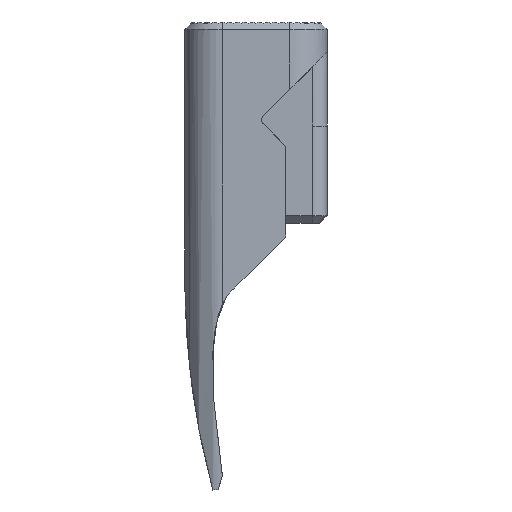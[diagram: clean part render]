
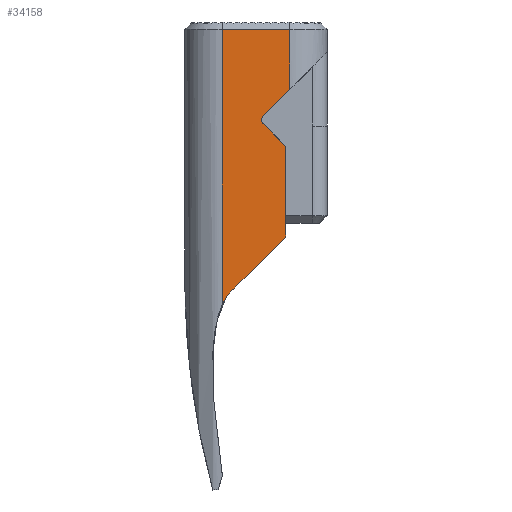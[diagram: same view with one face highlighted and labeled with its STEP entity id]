
A CAD part, left-side view. The second image highlights one B-rep face of the part: STEP entity #34158.
In plain terms, the highlighted planar face has unit normal (-1, 0, 0).
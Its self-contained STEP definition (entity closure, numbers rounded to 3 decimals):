
#175 = VECTOR ( 'NONE', #14404, 1000. ) ;
#455 = CARTESIAN_POINT ( 'NONE',  ( -19., -19., -140. ) ) ;
#1005 = CARTESIAN_POINT ( 'NONE',  ( -19., -1.939, -27.182 ) ) ;
#1112 = CIRCLE ( 'NONE', #30056, 1.5 ) ;
#1222 = CARTESIAN_POINT ( 'NONE',  ( -19., 7.575, -72.281 ) ) ;
#1602 = EDGE_CURVE ( 'NONE', #33680, #33112, #37123, .T. ) ;
#2120 = CARTESIAN_POINT ( 'NONE',  ( -19., -9., -2. ) ) ;
#2143 = AXIS2_PLACEMENT_3D ( 'NONE', #16245, #28291, #20493 ) ;
#2418 = EDGE_CURVE ( 'NONE', #11931, #16132, #32247, .T. ) ;
#2711 = EDGE_CURVE ( 'NONE', #16132, #22895, #1112, .T. ) ;
#2826 = DIRECTION ( 'NONE',  ( -1., 0., 0. ) ) ;
#3177 = ORIENTED_EDGE ( 'NONE', *, *, #33696, .T. ) ;
#3697 = CARTESIAN_POINT ( 'NONE',  ( -19., -8., -26.765 ) ) ;
#4850 = VECTOR ( 'NONE', #15710, 1000. ) ;
#5526 = LINE ( 'NONE', #11441, #175 ) ;
#5683 = CARTESIAN_POINT ( 'NONE',  ( -19., 9., -75.426 ) ) ;
#6404 = VERTEX_POINT ( 'NONE', #33949 ) ;
#7640 = ORIENTED_EDGE ( 'NONE', *, *, #37213, .T. ) ;
#8144 = ORIENTED_EDGE ( 'NONE', *, *, #13403, .T. ) ;
#8267 = LINE ( 'NONE', #14377, #27568 ) ;
#8283 = CARTESIAN_POINT ( 'NONE',  ( -19., -1.939, -25.061 ) ) ;
#8609 = CARTESIAN_POINT ( 'NONE',  ( -19., -8., -34.071 ) ) ;
#8739 = CARTESIAN_POINT ( 'NONE',  ( -19., -8., -56.572 ) ) ;
#8872 = EDGE_CURVE ( 'NONE', #27578, #33112, #5526, .T. ) ;
#9566 = CARTESIAN_POINT ( 'NONE',  ( -19., -9., -18. ) ) ;
#10164 = CARTESIAN_POINT ( 'NONE',  ( -19., -3., -26.121 ) ) ;
#10201 = EDGE_CURVE ( 'NONE', #21184, #19460, #23451, .T. ) ;
#10204 = ORIENTED_EDGE ( 'NONE', *, *, #27041, .T. ) ;
#10470 = EDGE_CURVE ( 'NONE', #31585, #21184, #30707, .T. ) ;
#11378 = DIRECTION ( 'NONE',  ( -1., 0., 0. ) ) ;
#11441 = CARTESIAN_POINT ( 'NONE',  ( -19., 7.651, -73.052 ) ) ;
#11796 = CARTESIAN_POINT ( 'NONE',  ( -19., 9., -2. ) ) ;
#11931 = VERTEX_POINT ( 'NONE', #9566 ) ;
#12747 = AXIS2_PLACEMENT_3D ( 'NONE', #14341, #11378, #26371 ) ;
#12960 = ORIENTED_EDGE ( 'NONE', *, *, #2711, .F. ) ;
#13107 = DIRECTION ( 'NONE',  ( 0., -0.707, -0.707 ) ) ;
#13403 = EDGE_CURVE ( 'NONE', #11931, #23661, #8267, .T. ) ;
#14239 = CARTESIAN_POINT ( 'NONE',  ( -19., -7.414, -32.657 ) ) ;
#14341 = CARTESIAN_POINT ( 'NONE',  ( -19., -6., -34.071 ) ) ;
#14377 = CARTESIAN_POINT ( 'NONE',  ( -19., -9., -140. ) ) ;
#14404 = DIRECTION ( 'NONE',  ( 0., 0.707, -0.707 ) ) ;
#14808 = CARTESIAN_POINT ( 'NONE',  ( -19., 5.378, -70.779 ) ) ;
#15217 = CARTESIAN_POINT ( 'NONE',  ( -19., 9., -140. ) ) ;
#15710 = DIRECTION ( 'NONE',  ( 0., 0., 1. ) ) ;
#16132 = VERTEX_POINT ( 'NONE', #8283 ) ;
#16245 = CARTESIAN_POINT ( 'NONE',  ( -19., -6., -56.572 ) ) ;
#16252 = LINE ( 'NONE', #34200, #33620 ) ;
#16450 = DIRECTION ( 'NONE',  ( -1., 0., 0. ) ) ;
#17780 = LINE ( 'NONE', #15217, #21691 ) ;
#19460 = VERTEX_POINT ( 'NONE', #14239 ) ;
#19553 = CARTESIAN_POINT ( 'NONE',  ( -19., 5.378, -70.779 ) ) ;
#20493 = DIRECTION ( 'NONE',  ( 0., 0., 1. ) ) ;
#20568 = DIRECTION ( 'NONE',  ( 0., 0., 1. ) ) ;
#21184 = VERTEX_POINT ( 'NONE', #8609 ) ;
#21649 = EDGE_LOOP ( 'NONE', ( #29208, #10204, #30606, #38487, #37928, #12960, #34228, #8144, #3177, #7640, #25913 ) ) ;
#21691 = VECTOR ( 'NONE', #26866, 1000. ) ;
#22895 = VERTEX_POINT ( 'NONE', #1005 ) ;
#23451 = CIRCLE ( 'NONE', #12747, 2. ) ;
#23661 = VERTEX_POINT ( 'NONE', #2120 ) ;
#25913 = ORIENTED_EDGE ( 'NONE', *, *, #1602, .T. ) ;
#26213 = DIRECTION ( 'NONE',  ( 0., 0., 1. ) ) ;
#26371 = DIRECTION ( 'NONE',  ( 0., 0., 1. ) ) ;
#26802 = CARTESIAN_POINT ( 'NONE',  ( -19., -7.414, -57.986 ) ) ;
#26866 = DIRECTION ( 'NONE',  ( 0., 0., -1. ) ) ;
#27041 = EDGE_CURVE ( 'NONE', #27578, #31585, #29835, .T. ) ;
#27481 = PLANE ( 'NONE',  #35988 ) ;
#27568 = VECTOR ( 'NONE', #26213, 1000. ) ;
#27578 = VERTEX_POINT ( 'NONE', #26802 ) ;
#28251 = CARTESIAN_POINT ( 'NONE',  ( -19., 9., -75.426 ) ) ;
#28291 = DIRECTION ( 'NONE',  ( -1., 0., 0. ) ) ;
#28503 = EDGE_CURVE ( 'NONE', #22895, #19460, #16252, .T. ) ;
#28746 = DIRECTION ( 'NONE',  ( 0., 0.707, -0.707 ) ) ;
#28930 = CARTESIAN_POINT ( 'NONE',  ( -19., -19., -8. ) ) ;
#29208 = ORIENTED_EDGE ( 'NONE', *, *, #8872, .F. ) ;
#29546 = LINE ( 'NONE', #11796, #32176 ) ;
#29835 = CIRCLE ( 'NONE', #2143, 2. ) ;
#29943 = DIRECTION ( 'NONE',  ( 0., 1., 0. ) ) ;
#30056 = AXIS2_PLACEMENT_3D ( 'NONE', #10164, #16450, #36773 ) ;
#30606 = ORIENTED_EDGE ( 'NONE', *, *, #10470, .T. ) ;
#30707 = LINE ( 'NONE', #3697, #4850 ) ;
#31585 = VERTEX_POINT ( 'NONE', #8739 ) ;
#32041 = VECTOR ( 'NONE', #28746, 1000. ) ;
#32176 = VECTOR ( 'NONE', #29943, 1000. ) ;
#32247 = LINE ( 'NONE', #28930, #32041 ) ;
#33112 = VERTEX_POINT ( 'NONE', #14808 ) ;
#33620 = VECTOR ( 'NONE', #13107, 1000. ) ;
#33680 = VERTEX_POINT ( 'NONE', #5683 ) ;
#33696 = EDGE_CURVE ( 'NONE', #23661, #6404, #29546, .T. ) ;
#33949 = CARTESIAN_POINT ( 'NONE',  ( -19., 9., -2. ) ) ;
#34158 = ADVANCED_FACE ( 'NONE', ( #38914 ), #27481, .T. ) ;
#34200 = CARTESIAN_POINT ( 'NONE',  ( -19., -19., -44.243 ) ) ;
#34228 = ORIENTED_EDGE ( 'NONE', *, *, #2418, .F. ) ;
#35988 = AXIS2_PLACEMENT_3D ( 'NONE', #455, #2826, #20568 ) ;
#36773 = DIRECTION ( 'NONE',  ( 0., 0., 1. ) ) ;
#37123 = B_SPLINE_CURVE_WITH_KNOTS ( 'NONE', 2,
 ( #28251, #1222, #19553 ),
 .UNSPECIFIED., .F., .F.,
 ( 3, 3 ),
 ( 0.505, 0.616 ),
 .UNSPECIFIED. ) ;
#37213 = EDGE_CURVE ( 'NONE', #6404, #33680, #17780, .T. ) ;
#37928 = ORIENTED_EDGE ( 'NONE', *, *, #28503, .F. ) ;
#38487 = ORIENTED_EDGE ( 'NONE', *, *, #10201, .T. ) ;
#38914 = FACE_OUTER_BOUND ( 'NONE', #21649, .T. ) ;
